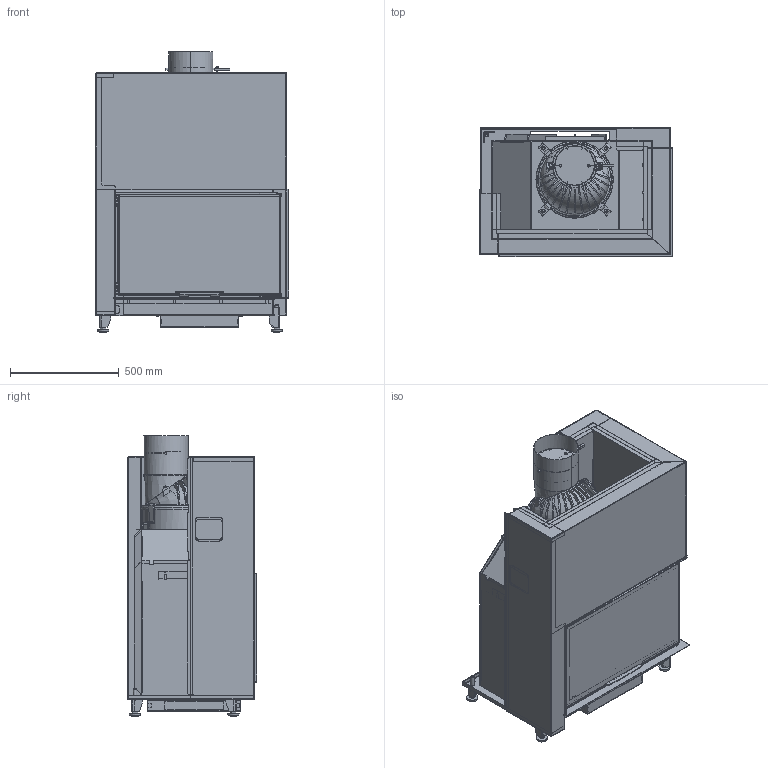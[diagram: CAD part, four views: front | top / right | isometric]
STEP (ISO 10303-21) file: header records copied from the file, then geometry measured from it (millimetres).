
FILE_DESCRIPTION(/* description */ (''),/* implementation_level */ '2;1');
FILE_NAME(/* name */ 'C:\ADSK_DM_WS\CAD_3D\03 Geraete\RII 50x80x50\Zeichnungen\RII_50x80x50_Rechts_ohne_Mantel_Oben_Gen2_2022-03201.stp',/* time_stamp */ '2022-08-04T11:20:42+02:00',/* author */ ('TIS'),/* organization */ (''),/* preprocessor_version */ 'ST-DEVELOPER v18.1',/* originating_system */ 'Autodesk Inventor 2022',/* authorisation */ '');
FILE_SCHEMA (('AUTOMOTIVE_DESIGN { 1 0 10303 214 3 1 1 }'));
Products named in the file (7): 2022-03201; 2022-03198; 2022-03197; 2022-03196; 2022-03195; 2022-03193; 2022-03203
Assembly tree (6 placements, depth 2):
  2022-03201
    2022-03198
    2022-03197
    2022-03196
    2022-03195
    2022-03193
    2022-03203
Bounding box: 888.9 x 596.5 x 1288.56 mm (x, y, z)
Volume: 49924303.4 mm3; surface area: 17877539.9 mm2
Topology: 18 solids, 29 shells, 8393 faces, 22292 edges, 13817 vertices
Faces by surface type: plane 5188, cylinder 2750, bspline 229, cone 165, torus 53, sphere 8
Full cylindrical faces by diameter (mm): 4 x6, 4.5 x4, 4.8 x6, 6 x3, 7.4 x6, 7.9 x1, 8 x8, 9 x3, 9.5 x6, 10 x3, 11.192 x3, 11.4 x6, 12 x2, 16 x14, 30 x4, 163 x1, 333 x1, 339 x1
Entity records: 276193 total; most frequent: CARTESIAN_POINT 56436, ORIENTED_EDGE 44532, DIRECTION 44147, EDGE_CURVE 22319, LINE 14749, VECTOR 14749, AXIS2_PLACEMENT_3D 14699, VERTEX_POINT 13823
